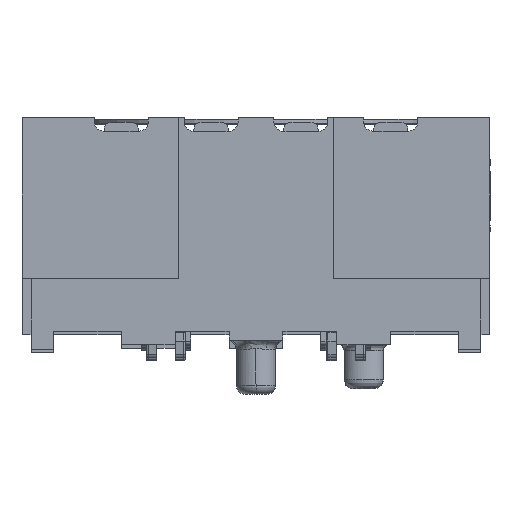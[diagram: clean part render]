
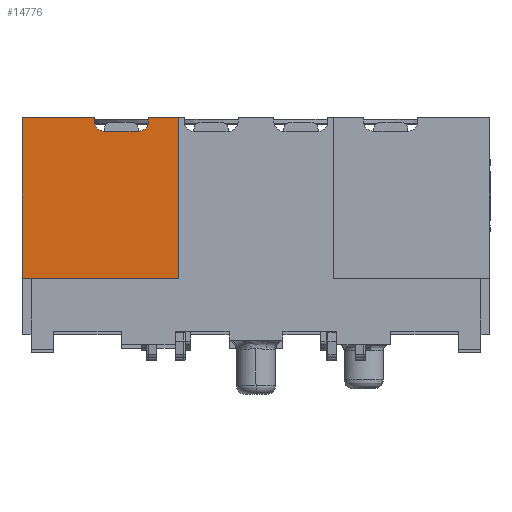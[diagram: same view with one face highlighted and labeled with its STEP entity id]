
A CAD part, top view. The second image highlights one B-rep face of the part: STEP entity #14776.
In plain terms, the highlighted planar face has unit normal (0, 0, 1).
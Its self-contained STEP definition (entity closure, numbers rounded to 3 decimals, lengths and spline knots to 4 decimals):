
#37 = CARTESIAN_POINT ( 'NONE',  ( -2.1971, 0.2794, 28.7274 ) ) ;
#1391 = CARTESIAN_POINT ( 'NONE',  ( -6.6167, 0.2794, 28.7274 ) ) ;
#6950 = DIRECTION ( 'NONE',  ( 0., 0., 1. ) ) ;
#7447 = EDGE_CURVE ( 'NONE', #84402, #101722, #26096, .T. ) ;
#8012 = DIRECTION ( 'NONE',  ( 1., 0., 0. ) ) ;
#8850 = DIRECTION ( 'NONE',  ( 1., 0., 0. ) ) ;
#11367 = CARTESIAN_POINT ( 'NONE',  ( -3.048, 4.699, 28.7274 ) ) ;
#12036 = CARTESIAN_POINT ( 'NONE',  ( -4.318, 4.445, 28.7274 ) ) ;
#12137 = LINE ( 'NONE', #45386, #75761 ) ;
#14776 = ADVANCED_FACE ( 'NONE', ( #43271 ), #82776, .T. ) ;
#15837 = CARTESIAN_POINT ( 'NONE',  ( -3.302, 4.699, 28.7274 ) ) ;
#16068 = VERTEX_POINT ( 'NONE', #11367 ) ;
#21117 = CARTESIAN_POINT ( 'NONE',  ( -6.6167, 0.2794, 28.7274 ) ) ;
#21158 = VECTOR ( 'NONE', #25397, 1000. ) ;
#21885 = CARTESIAN_POINT ( 'NONE',  ( -3.048, 4.826, 28.7274 ) ) ;
#23395 = CARTESIAN_POINT ( 'NONE',  ( -3.302, 4.445, 28.7274 ) ) ;
#24705 = CIRCLE ( 'NONE', #78365, 0.254 ) ;
#25397 = DIRECTION ( 'NONE',  ( 0., 1., 0. ) ) ;
#25740 = VERTEX_POINT ( 'NONE', #31865 ) ;
#26096 = LINE ( 'NONE', #44730, #93697 ) ;
#27859 = DIRECTION ( 'NONE',  ( -1., 0., 0. ) ) ;
#28165 = LINE ( 'NONE', #99938, #42533 ) ;
#28581 = EDGE_CURVE ( 'NONE', #68064, #49869, #105674, .T. ) ;
#28735 = DIRECTION ( 'NONE',  ( 0., -1., 0. ) ) ;
#29957 = EDGE_CURVE ( 'NONE', #42827, #25740, #48239, .T. ) ;
#31865 = CARTESIAN_POINT ( 'NONE',  ( -6.6167, 4.826, 28.7274 ) ) ;
#31972 = CARTESIAN_POINT ( 'NONE',  ( -6.6167, 0.2794, 28.7274 ) ) ;
#32044 = ORIENTED_EDGE ( 'NONE', *, *, #7447, .F. ) ;
#34027 = EDGE_CURVE ( 'NONE', #53644, #49869, #28165, .T. ) ;
#37597 = CARTESIAN_POINT ( 'NONE',  ( -6.6167, 4.826, 28.7274 ) ) ;
#42533 = VECTOR ( 'NONE', #8850, 1000. ) ;
#42827 = VERTEX_POINT ( 'NONE', #21117 ) ;
#43271 = FACE_OUTER_BOUND ( 'NONE', #47913, .T. ) ;
#44730 = CARTESIAN_POINT ( 'NONE',  ( -4.318, 4.445, 28.7274 ) ) ;
#44855 = ORIENTED_EDGE ( 'NONE', *, *, #54849, .F. ) ;
#44925 = EDGE_CURVE ( 'NONE', #94219, #93386, #46982, .T. ) ;
#44941 = CARTESIAN_POINT ( 'NONE',  ( -4.572, 4.826, 28.7274 ) ) ;
#45263 = ORIENTED_EDGE ( 'NONE', *, *, #46450, .F. ) ;
#45386 = CARTESIAN_POINT ( 'NONE',  ( -3.048, 4.826, 28.7274 ) ) ;
#46450 = EDGE_CURVE ( 'NONE', #93386, #84402, #24705, .T. ) ;
#46982 = LINE ( 'NONE', #61750, #98973 ) ;
#47913 = EDGE_LOOP ( 'NONE', ( #103397, #91389, #66499, #89015, #85640, #60367, #78524, #44855, #32044, #45263 ) ) ;
#48143 = DIRECTION ( 'NONE',  ( 0., 0., 1. ) ) ;
#48239 = LINE ( 'NONE', #1391, #98867 ) ;
#49728 = CARTESIAN_POINT ( 'NONE',  ( -6.6167, 0.2794, 28.7274 ) ) ;
#49869 = VERTEX_POINT ( 'NONE', #98335 ) ;
#52086 = CIRCLE ( 'NONE', #91586, 0.254 ) ;
#53644 = VERTEX_POINT ( 'NONE', #21885 ) ;
#54121 = CARTESIAN_POINT ( 'NONE',  ( -2.1971, 0.2794, 28.7274 ) ) ;
#54276 = DIRECTION ( 'NONE',  ( 1., 0., 0. ) ) ;
#54849 = EDGE_CURVE ( 'NONE', #101722, #16068, #52086, .T. ) ;
#59025 = DIRECTION ( 'NONE',  ( 0., 1., 0. ) ) ;
#60367 = ORIENTED_EDGE ( 'NONE', *, *, #34027, .F. ) ;
#61227 = CARTESIAN_POINT ( 'NONE',  ( -4.318, 4.699, 28.7274 ) ) ;
#61360 = DIRECTION ( 'NONE',  ( 1., 0., 0. ) ) ;
#61750 = CARTESIAN_POINT ( 'NONE',  ( -4.572, 4.826, 28.7274 ) ) ;
#62995 = AXIS2_PLACEMENT_3D ( 'NONE', #49728, #6950, #8012 ) ;
#66499 = ORIENTED_EDGE ( 'NONE', *, *, #29957, .F. ) ;
#68064 = VERTEX_POINT ( 'NONE', #54121 ) ;
#73916 = VECTOR ( 'NONE', #81736, 1000. ) ;
#75761 = VECTOR ( 'NONE', #103460, 1000. ) ;
#76436 = LINE ( 'NONE', #37597, #94686 ) ;
#77790 = CARTESIAN_POINT ( 'NONE',  ( -4.572, 4.699, 28.7274 ) ) ;
#78365 = AXIS2_PLACEMENT_3D ( 'NONE', #61227, #84894, #27859 ) ;
#78524 = ORIENTED_EDGE ( 'NONE', *, *, #93941, .F. ) ;
#79669 = EDGE_CURVE ( 'NONE', #42827, #68064, #95988, .T. ) ;
#81736 = DIRECTION ( 'NONE',  ( 1., 0., 0. ) ) ;
#82776 = PLANE ( 'NONE',  #62995 ) ;
#83364 = EDGE_CURVE ( 'NONE', #25740, #94219, #76436, .T. ) ;
#84402 = VERTEX_POINT ( 'NONE', #12036 ) ;
#84894 = DIRECTION ( 'NONE',  ( 0., 0., 1. ) ) ;
#85640 = ORIENTED_EDGE ( 'NONE', *, *, #28581, .T. ) ;
#89015 = ORIENTED_EDGE ( 'NONE', *, *, #79669, .T. ) ;
#91389 = ORIENTED_EDGE ( 'NONE', *, *, #83364, .F. ) ;
#91586 = AXIS2_PLACEMENT_3D ( 'NONE', #15837, #48143, #106973 ) ;
#93386 = VERTEX_POINT ( 'NONE', #77790 ) ;
#93697 = VECTOR ( 'NONE', #61360, 1000. ) ;
#93941 = EDGE_CURVE ( 'NONE', #16068, #53644, #12137, .T. ) ;
#94219 = VERTEX_POINT ( 'NONE', #44941 ) ;
#94686 = VECTOR ( 'NONE', #54276, 1000. ) ;
#95988 = LINE ( 'NONE', #31972, #73916 ) ;
#98335 = CARTESIAN_POINT ( 'NONE',  ( -2.1971, 4.826, 28.7274 ) ) ;
#98867 = VECTOR ( 'NONE', #59025, 1000. ) ;
#98973 = VECTOR ( 'NONE', #28735, 1000. ) ;
#99938 = CARTESIAN_POINT ( 'NONE',  ( -6.6167, 4.826, 28.7274 ) ) ;
#101722 = VERTEX_POINT ( 'NONE', #23395 ) ;
#103397 = ORIENTED_EDGE ( 'NONE', *, *, #44925, .F. ) ;
#103460 = DIRECTION ( 'NONE',  ( 0., 1., 0. ) ) ;
#105674 = LINE ( 'NONE', #37, #21158 ) ;
#106973 = DIRECTION ( 'NONE',  ( 1., 0., 0. ) ) ;
